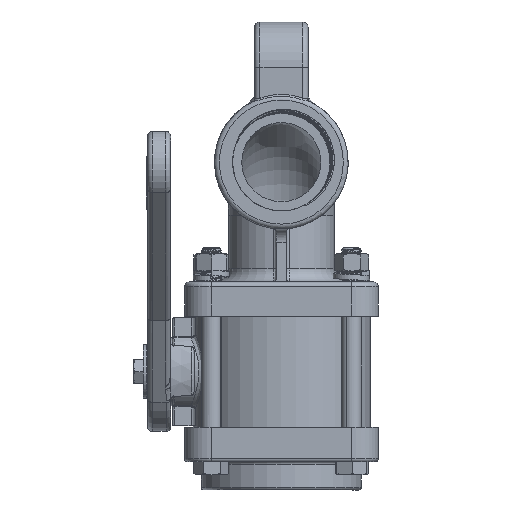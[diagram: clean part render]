
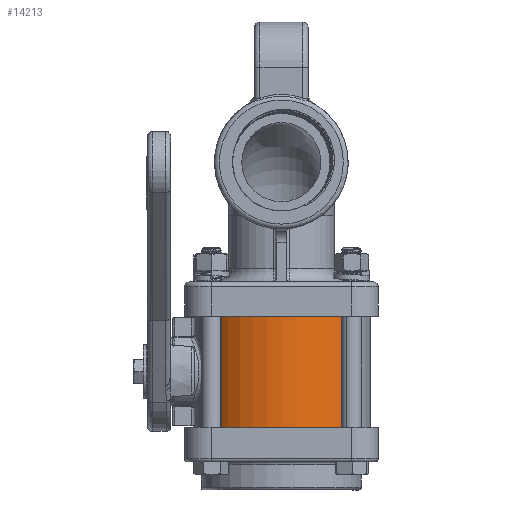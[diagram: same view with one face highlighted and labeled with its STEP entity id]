
A CAD part, front view. The second image highlights one B-rep face of the part: STEP entity #14213.
In plain terms, the highlighted cylindrical face has radius 42.164 mm (diameter 84.328 mm), a partial arc.
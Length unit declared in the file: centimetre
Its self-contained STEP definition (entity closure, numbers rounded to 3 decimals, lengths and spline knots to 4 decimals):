
#3155=VECTOR('',#16091,1.);
#3168=VECTOR('',#16121,1.);
#3920=LINE('',#18834,#3155);
#3933=LINE('',#19502,#3168);
#4686=VERTEX_POINT('',#18828);
#4689=VERTEX_POINT('',#18833);
#4716=VERTEX_POINT('',#19496);
#4719=VERTEX_POINT('',#19501);
#5961=CIRCLE('',#14943,4.2164);
#5962=CIRCLE('',#14944,4.2164);
#6464=EDGE_CURVE('',#4689,#4686,#3920,.T.);
#6499=EDGE_CURVE('',#4719,#4716,#3933,.T.);
#6592=EDGE_CURVE('',#4719,#4686,#5962,.T.);
#6608=EDGE_CURVE('',#4689,#4716,#5961,.T.);
#8700=ORIENTED_EDGE('',*,*,#6464,.F.);
#8701=ORIENTED_EDGE('',*,*,#6608,.T.);
#8702=ORIENTED_EDGE('',*,*,#6499,.F.);
#8703=ORIENTED_EDGE('',*,*,#6592,.T.);
#12406=EDGE_LOOP('',(#8700,#8701,#8702,#8703));
#13317=FACE_BOUND('',#12406,.T.);
#14213=ADVANCED_FACE('',(#13317),#96244,.T.);
#14942=AXIS2_PLACEMENT_3D('',#18984,#16097,#16098);
#14943=AXIS2_PLACEMENT_3D('',#18985,#16099,#16100);
#14944=AXIS2_PLACEMENT_3D('',#19013,#16101,#16102);
#16091=DIRECTION('',(0.,0.,-1.));
#16097=DIRECTION('',(0.,0.,1.));
#16098=DIRECTION('',(4.216,0.,0.));
#16099=DIRECTION('',(0.,0.,-1.));
#16100=DIRECTION('',(4.216,0.,0.));
#16101=DIRECTION('',(0.,0.,1.));
#16102=DIRECTION('',(4.216,0.,0.));
#16121=DIRECTION('',(0.,0.,1.));
#18828=CARTESIAN_POINT('',(-2.9172,-3.0443,0.));
#18833=CARTESIAN_POINT('',(-2.9172,-3.0443,5.2832));
#18834=CARTESIAN_POINT('',(-2.9172,-3.0443,0.));
#18984=CARTESIAN_POINT('',(0.,0.,0.));
#18985=CARTESIAN_POINT('',(0.,0.,5.2832));
#19013=CARTESIAN_POINT('',(0.,0.,0.));
#19496=CARTESIAN_POINT('',(-2.9172,3.0443,5.2832));
#19501=CARTESIAN_POINT('',(-2.9172,3.0443,0.));
#19502=CARTESIAN_POINT('',(-2.9172,3.0443,0.));
#96244=CYLINDRICAL_SURFACE('',#14942,4.2164);
